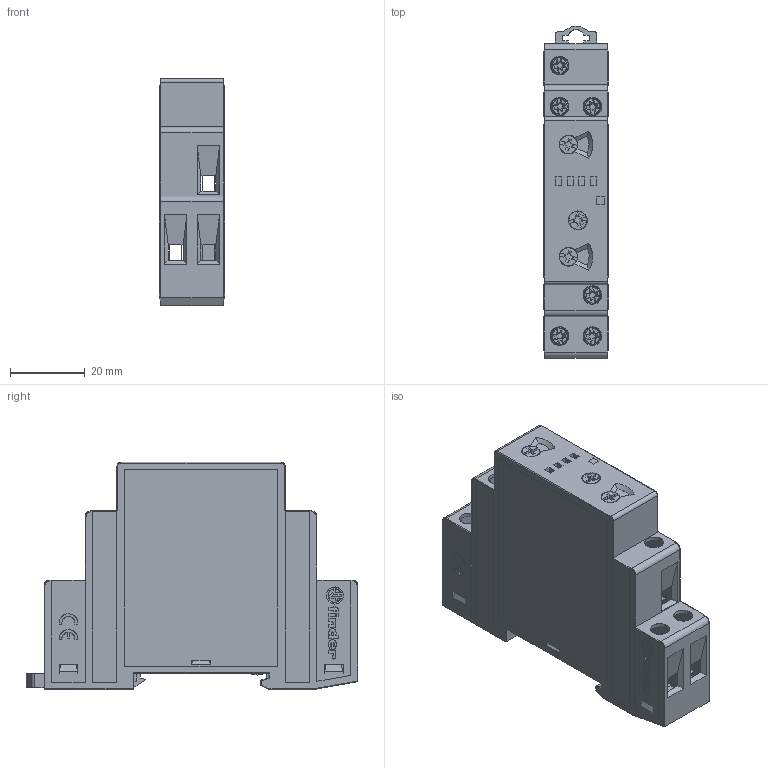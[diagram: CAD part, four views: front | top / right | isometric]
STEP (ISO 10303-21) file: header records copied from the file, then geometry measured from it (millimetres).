
FILE_DESCRIPTION(('STEP AP214'),'2;1');
FILE_NAME('8051---catalogo.stp','2011-01-27T14:24:35',(''),(''),'2007.1.106','THINKDESIGN','');
FILE_SCHEMA(('AUTOMOTIVE_DESIGN'));
Products named in the file (1): None
Bounding box: 17.5 x 88.85 x 60.8 mm (x, y, z)
Surface area: 15084.8 mm2 (no closed solid volume)
Topology: 0 solids, 0 shells, 885 faces, 4886 edges, 4875 vertices
Faces by surface type: plane 678, bspline 105, cylinder 102
Full cylindrical faces by diameter (mm): 5 x7
Entity records: 52083 total; most frequent: CARTESIAN_POINT 16986, DIRECTION 5908, COMPOSITE_CURVE_SEGMENT 4886, TRIMMED_CURVE 4139, VECTOR 3944, LINE 3944, AXIS2_PLACEMENT_3D 982, OUTER_BOUNDARY_CURVE 885
